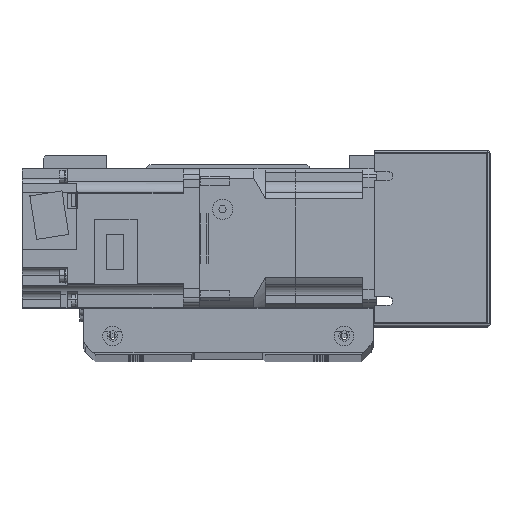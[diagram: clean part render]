
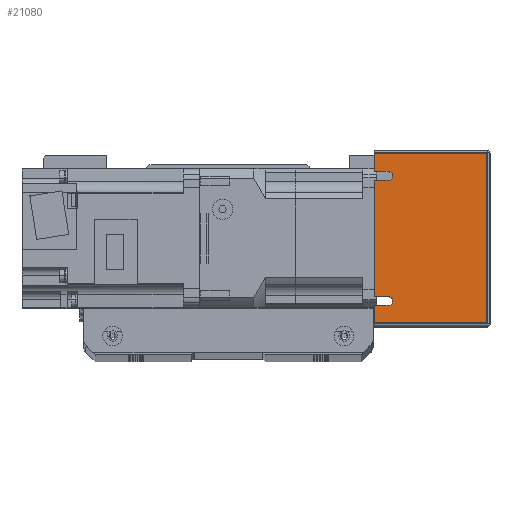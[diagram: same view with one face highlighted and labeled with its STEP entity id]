
A CAD part, top view. The second image highlights one B-rep face of the part: STEP entity #21080.
In plain terms, the highlighted planar face has unit normal (0, 0, 1) as drawn and (-1, 0, 0) by its records, which use the part's own axes.
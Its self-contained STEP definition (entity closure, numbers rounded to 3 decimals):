
#665=PLANE('',#23333);
#1995=LINE('',#35273,#3619);
#2002=LINE('',#35289,#3626);
#2011=LINE('',#35309,#3635);
#2019=LINE('',#35327,#3643);
#2034=LINE('',#35370,#3658);
#2036=LINE('',#35377,#3660);
#2039=LINE('',#35386,#3663);
#2044=LINE('',#35400,#3668);
#2045=LINE('',#35402,#3669);
#2046=LINE('',#35403,#3670);
#3619=VECTOR('',#28740,10.);
#3626=VECTOR('',#28751,10.);
#3635=VECTOR('',#28764,10.);
#3643=VECTOR('',#28776,10.);
#3658=VECTOR('',#28821,10.);
#3660=VECTOR('',#28829,10.);
#3663=VECTOR('',#28838,10.);
#3668=VECTOR('',#28851,10.);
#3669=VECTOR('',#28852,10.);
#3670=VECTOR('',#28853,10.);
#6072=FACE_OUTER_BOUND('',#7740,.T.);
#7740=EDGE_LOOP('',(#18276,#18277,#18278,#18279,#18280,#18281,#18282,#18283,
#18284,#18285,#18286,#18287));
#8910=CIRCLE('',#23312,2.);
#8915=CIRCLE('',#23320,2.);
#10627=VERTEX_POINT('',#35270);
#10628=VERTEX_POINT('',#35272);
#10634=VERTEX_POINT('',#35286);
#10635=VERTEX_POINT('',#35288);
#10643=VERTEX_POINT('',#35306);
#10644=VERTEX_POINT('',#35308);
#10651=VERTEX_POINT('',#35324);
#10652=VERTEX_POINT('',#35326);
#10665=VERTEX_POINT('',#35369);
#10670=VERTEX_POINT('',#35384);
#10675=VERTEX_POINT('',#35399);
#10676=VERTEX_POINT('',#35401);
#13207=EDGE_CURVE('',#10627,#10628,#1995,.T.);
#13214=EDGE_CURVE('',#10634,#10635,#2002,.T.);
#13223=EDGE_CURVE('',#10643,#10644,#2011,.T.);
#13231=EDGE_CURVE('',#10651,#10652,#2019,.T.);
#13238=EDGE_CURVE('',#10635,#10627,#8910,.T.);
#13249=EDGE_CURVE('',#10652,#10643,#8915,.T.);
#13255=EDGE_CURVE('',#10665,#10644,#2034,.T.);
#13259=EDGE_CURVE('',#10651,#10628,#2036,.T.);
#13264=EDGE_CURVE('',#10634,#10670,#2039,.T.);
#13271=EDGE_CURVE('',#10670,#10675,#2044,.T.);
#13272=EDGE_CURVE('',#10675,#10676,#2045,.T.);
#13273=EDGE_CURVE('',#10676,#10665,#2046,.T.);
#18276=ORIENTED_EDGE('',*,*,#13207,.F.);
#18277=ORIENTED_EDGE('',*,*,#13238,.F.);
#18278=ORIENTED_EDGE('',*,*,#13214,.F.);
#18279=ORIENTED_EDGE('',*,*,#13264,.T.);
#18280=ORIENTED_EDGE('',*,*,#13271,.T.);
#18281=ORIENTED_EDGE('',*,*,#13272,.T.);
#18282=ORIENTED_EDGE('',*,*,#13273,.T.);
#18283=ORIENTED_EDGE('',*,*,#13255,.T.);
#18284=ORIENTED_EDGE('',*,*,#13223,.F.);
#18285=ORIENTED_EDGE('',*,*,#13249,.F.);
#18286=ORIENTED_EDGE('',*,*,#13231,.F.);
#18287=ORIENTED_EDGE('',*,*,#13259,.T.);
#21080=ADVANCED_FACE('',(#6072),#665,.F.);
#23312=AXIS2_PLACEMENT_3D('',#35340,#28788,#28789);
#23320=AXIS2_PLACEMENT_3D('',#35358,#28810,#28811);
#23333=AXIS2_PLACEMENT_3D('',#35398,#28849,#28850);
#28740=DIRECTION('',(0.,0.,-1.));
#28751=DIRECTION('',(0.,0.,1.));
#28764=DIRECTION('',(0.,0.,-1.));
#28776=DIRECTION('',(0.,0.,1.));
#28788=DIRECTION('center_axis',(-1.,0.,0.));
#28789=DIRECTION('ref_axis',(0.,0.,-1.));
#28810=DIRECTION('center_axis',(-1.,0.,0.));
#28811=DIRECTION('ref_axis',(0.,0.,-1.));
#28821=DIRECTION('',(0.,-1.,0.));
#28829=DIRECTION('',(0.,-1.,0.));
#28838=DIRECTION('',(0.,-1.,0.));
#28849=DIRECTION('center_axis',(1.,0.,0.));
#28850=DIRECTION('ref_axis',(0.,-1.,0.));
#28851=DIRECTION('',(0.,0.,1.));
#28852=DIRECTION('',(0.,1.,0.));
#28853=DIRECTION('',(0.,0.,-1.));
#35270=CARTESIAN_POINT('',(-91.,-25.,-19.));
#35272=CARTESIAN_POINT('',(-91.,-25.,-25.));
#35273=CARTESIAN_POINT('',(-91.,-25.,-9.5));
#35286=CARTESIAN_POINT('',(-91.,-29.,-25.));
#35288=CARTESIAN_POINT('',(-91.,-29.,-19.));
#35289=CARTESIAN_POINT('',(-91.,-29.,-15.178));
#35306=CARTESIAN_POINT('',(-91.,29.,-19.));
#35308=CARTESIAN_POINT('',(-91.,29.,-25.));
#35309=CARTESIAN_POINT('',(-91.,29.,-9.5));
#35324=CARTESIAN_POINT('',(-91.,25.,-25.));
#35326=CARTESIAN_POINT('',(-91.,25.,-19.));
#35327=CARTESIAN_POINT('',(-91.,25.,-15.178));
#35340=CARTESIAN_POINT('Origin',(-91.,-27.,-19.));
#35358=CARTESIAN_POINT('Origin',(-91.,27.,-19.));
#35369=CARTESIAN_POINT('',(-91.,37.,-25.));
#35370=CARTESIAN_POINT('',(-91.,-38.,-25.));
#35377=CARTESIAN_POINT('',(-91.,-38.,-25.));
#35384=CARTESIAN_POINT('',(-91.,-37.,-25.));
#35386=CARTESIAN_POINT('',(-91.,-38.,-25.));
#35398=CARTESIAN_POINT('Origin',(-91.,38.,0.));
#35399=CARTESIAN_POINT('',(-91.,-37.,24.));
#35400=CARTESIAN_POINT('',(-91.,-37.,0.));
#35401=CARTESIAN_POINT('',(-91.,37.,24.));
#35402=CARTESIAN_POINT('',(-91.,19.,24.));
#35403=CARTESIAN_POINT('',(-91.,37.,0.));
